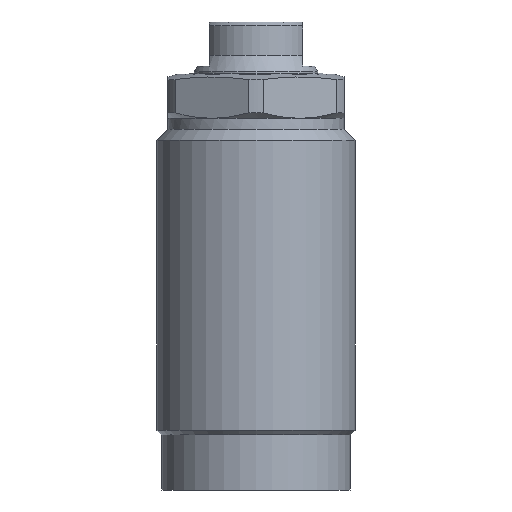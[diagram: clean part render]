
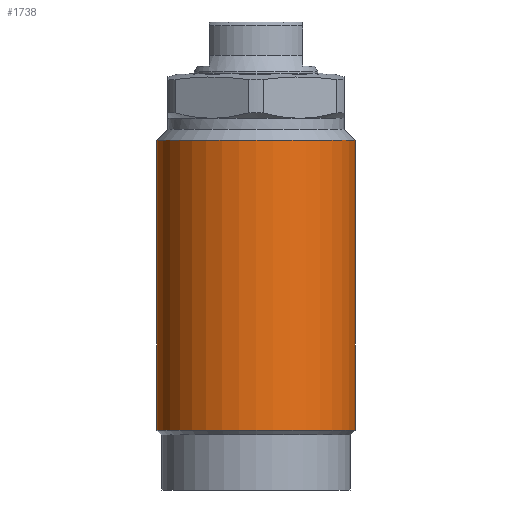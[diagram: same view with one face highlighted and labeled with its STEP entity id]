
A CAD part, front view. The second image highlights one B-rep face of the part: STEP entity #1738.
In plain terms, the highlighted cylindrical face has radius 18 mm (diameter 36 mm), a partial arc.
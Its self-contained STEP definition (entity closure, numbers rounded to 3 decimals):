
#1675=CARTESIAN_POINT('',(-18.,0.0,-64.65));
#1676=VERTEX_POINT('',#1675);
#1684=CARTESIAN_POINT('',(18.,0.0,-64.65));
#1685=VERTEX_POINT('',#1684);
#1692=CARTESIAN_POINT('',(-0.0,0.0,-64.65));
#1693=DIRECTION('',(0.0,0.0,1.0));
#1694=DIRECTION('',(1.0,0.0,0.0));
#1695=AXIS2_PLACEMENT_3D('',#1692,#1693,#1694);
#1696=CIRCLE('',#1695,18.);
#1697=EDGE_CURVE('no 2530',#1676,#1685,#1696,.T.);
#1707=CARTESIAN_POINT('',(-18.,0.0,-12.));
#1708=VERTEX_POINT('',#1707);
#1709=CARTESIAN_POINT('',(-18.,0.0,-64.65));
#1710=DIRECTION('',(-0.0,-0.0,1.0));
#1711=VECTOR('',#1710,1.0);
#1712=LINE('',#1709,#1711);
#1713=EDGE_CURVE('no 2540',#1676,#1708,#1712,.T.);
#1714=ORIENTED_EDGE('',*,*,#1713,.F.);
#1715=ORIENTED_EDGE('',*,*,#1697,.T.);
#1716=CARTESIAN_POINT('',(18.,0.0,-12.));
#1717=VERTEX_POINT('',#1716);
#1718=CARTESIAN_POINT('',(18.,0.0,-64.65));
#1719=DIRECTION('',(0.0,0.0,1.0));
#1720=VECTOR('',#1719,1.0);
#1721=LINE('',#1718,#1720);
#1722=EDGE_CURVE('no 2548',#1685,#1717,#1721,.T.);
#1723=ORIENTED_EDGE('',*,*,#1722,.T.);
#1724=CARTESIAN_POINT('',(-0.0,0.0,-12.));
#1725=DIRECTION('',(0.0,0.0,1.0));
#1726=DIRECTION('',(1.0,0.0,0.0));
#1727=AXIS2_PLACEMENT_3D('',#1724,#1725,#1726);
#1728=CIRCLE('',#1727,18.);
#1729=EDGE_CURVE('no 2552',#1708,#1717,#1728,.T.);
#1730=ORIENTED_EDGE('',*,*,#1729,.F.);
#1731=EDGE_LOOP('',(#1714,#1715,#1723,#1730));
#1732=FACE_OUTER_BOUND('',#1731,.T.);
#1733=CARTESIAN_POINT('',(-0.0,0.0,4.451));
#1734=DIRECTION('',(0.0,0.0,1.0));
#1735=DIRECTION('',(0.0,1.0,0.0));
#1736=AXIS2_PLACEMENT_3D('',#1733,#1734,#1735);
#1737=CYLINDRICAL_SURFACE('',#1736,18.);
#1738=ADVANCED_FACE('no 2533',(#1732),#1737,.T.);
